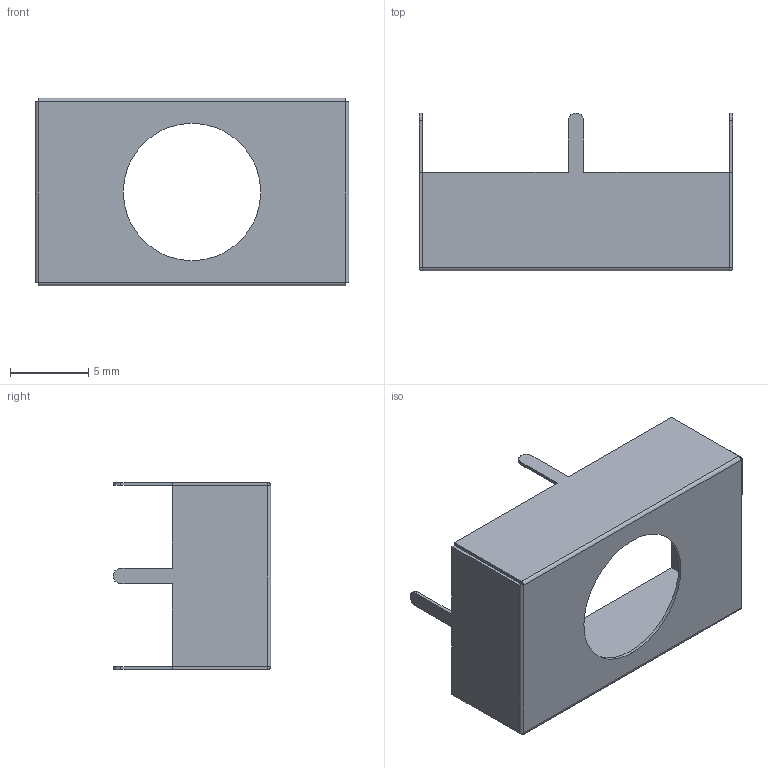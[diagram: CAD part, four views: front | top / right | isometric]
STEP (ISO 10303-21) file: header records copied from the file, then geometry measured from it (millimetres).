
FILE_DESCRIPTION (( 'STEP AP203' ), '1' );
FILE_NAME ('RF-020.STEP', '2023-10-23T05:08:37', ( '' ), ( '' ), 'SwSTEP 2.0', 'SolidWorks 2021', '' );
FILE_SCHEMA (( 'CONFIG_CONTROL_DESIGN' ));
Length unit declared in the file: millimetre
Products named in the file (1): RF-020
Bounding box: 20.1 x 10.1 x 12 mm (x, y, z)
Volume: 114.7 mm3; surface area: 1180.9 mm2
Topology: 1 solids, 1 shells, 57 faces, 133 edges, 78 vertices
Faces by surface type: plane 34, cylinder 15, bspline 8
Entity records: 1770 total; most frequent: CARTESIAN_POINT 473, ORIENTED_EDGE 266, DIRECTION 219, EDGE_CURVE 133, VECTOR 91, LINE 91, VERTEX_POINT 78, AXIS2_PLACEMENT_3D 64
